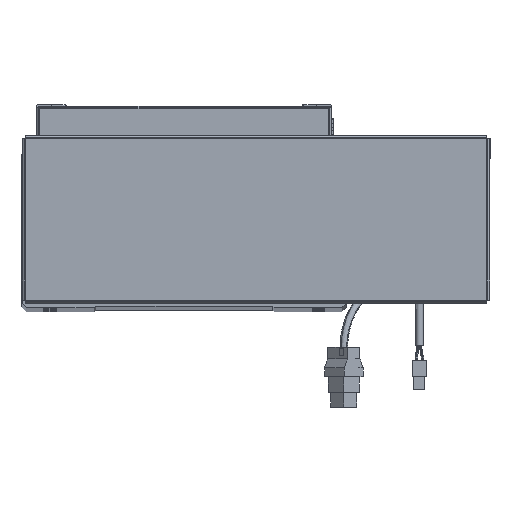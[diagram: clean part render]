
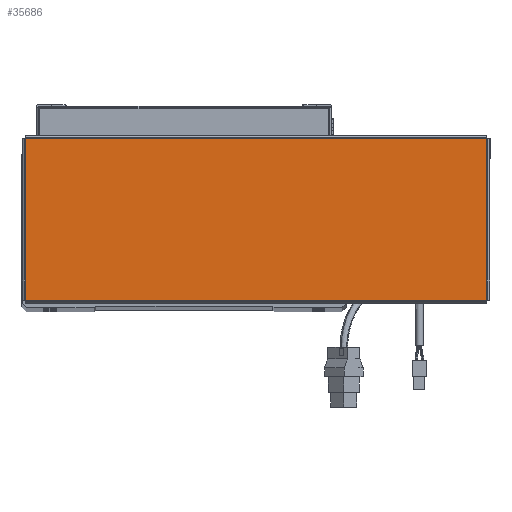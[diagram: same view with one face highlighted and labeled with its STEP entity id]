
A CAD part, top view. The second image highlights one B-rep face of the part: STEP entity #35686.
In plain terms, the highlighted planar face has unit normal (0, 0, 1).
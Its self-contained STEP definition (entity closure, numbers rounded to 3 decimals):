
#2687 = FACE_OUTER_BOUND ( 'NONE', #8947, .T. ) ;
#2723 = LINE ( 'NONE', #67496, #46883 ) ;
#5041 = LINE ( 'NONE', #49855, #16697 ) ;
#5073 = CARTESIAN_POINT ( 'NONE',  ( -156.513, 54.763, 0. ) ) ;
#6868 = DIRECTION ( 'NONE',  ( 1., 0., 0. ) ) ;
#7117 = DIRECTION ( 'NONE',  ( 0., 0., 1. ) ) ;
#8947 = EDGE_LOOP ( 'NONE', ( #37187, #13045, #65801, #41140 ) ) ;
#9702 = CARTESIAN_POINT ( 'NONE',  ( -156.513, -54.763, 0. ) ) ;
#10696 = DIRECTION ( 'NONE',  ( -1., 0., 0. ) ) ;
#10839 = VERTEX_POINT ( 'NONE', #50283 ) ;
#11918 = DIRECTION ( 'NONE',  ( 0., -1., 0. ) ) ;
#12308 = EDGE_CURVE ( 'NONE', #10839, #48252, #54792, .T. ) ;
#12780 = VERTEX_POINT ( 'NONE', #5073 ) ;
#13045 = ORIENTED_EDGE ( 'NONE', *, *, #12308, .T. ) ;
#13571 = CARTESIAN_POINT ( 'NONE',  ( 156.513, 54.763, 0. ) ) ;
#16697 = VECTOR ( 'NONE', #11918, 1000. ) ;
#17897 = CARTESIAN_POINT ( 'NONE',  ( 156.513, -54.793, 0. ) ) ;
#18896 = EDGE_CURVE ( 'NONE', #12780, #40896, #5041, .T. ) ;
#24389 = DIRECTION ( 'NONE',  ( 1., 0., 0. ) ) ;
#26231 = EDGE_CURVE ( 'NONE', #48252, #12780, #52210, .T. ) ;
#26417 = VECTOR ( 'NONE', #49343, 1000. ) ;
#26951 = CARTESIAN_POINT ( 'NONE',  ( 156.543, 54.763, 0. ) ) ;
#28178 = AXIS2_PLACEMENT_3D ( 'NONE', #44998, #7117, #6868 ) ;
#30205 = EDGE_CURVE ( 'NONE', #40896, #10839, #2723, .T. ) ;
#34018 = PLANE ( 'NONE',  #28178 ) ;
#35686 = ADVANCED_FACE ( 'NONE', ( #2687 ), #34018, .T. ) ;
#37187 = ORIENTED_EDGE ( 'NONE', *, *, #30205, .T. ) ;
#37977 = VECTOR ( 'NONE', #10696, 1000. ) ;
#40896 = VERTEX_POINT ( 'NONE', #9702 ) ;
#41140 = ORIENTED_EDGE ( 'NONE', *, *, #18896, .T. ) ;
#44998 = CARTESIAN_POINT ( 'NONE',  ( 0., 0., 0. ) ) ;
#46883 = VECTOR ( 'NONE', #24389, 1000. ) ;
#48252 = VERTEX_POINT ( 'NONE', #13571 ) ;
#49343 = DIRECTION ( 'NONE',  ( 0., 1., 0. ) ) ;
#49855 = CARTESIAN_POINT ( 'NONE',  ( -156.513, 54.793, 0. ) ) ;
#50283 = CARTESIAN_POINT ( 'NONE',  ( 156.513, -54.763, 0. ) ) ;
#52210 = LINE ( 'NONE', #26951, #37977 ) ;
#54792 = LINE ( 'NONE', #17897, #26417 ) ;
#65801 = ORIENTED_EDGE ( 'NONE', *, *, #26231, .T. ) ;
#67496 = CARTESIAN_POINT ( 'NONE',  ( -156.543, -54.763, 0. ) ) ;
